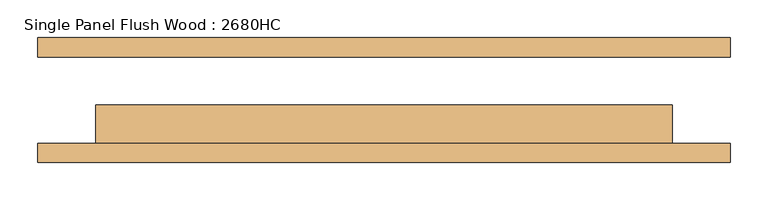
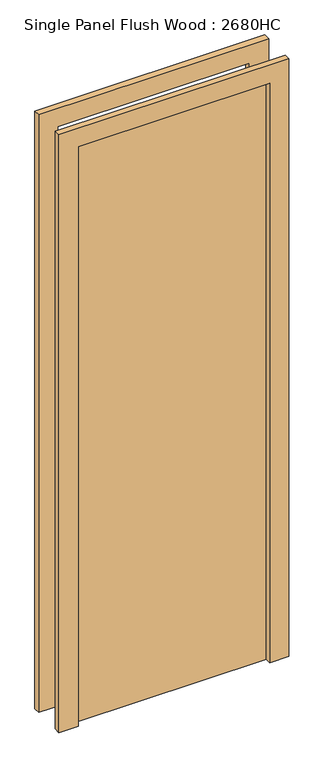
"""IFC4 building model written with IfcOpenShell, lengths in millimetres: door geometry, Single Panel Flush Wood : 2680HC."""

from ifc_helpers import new_model, si_unit, frame, origin, origin_with_axes, place, context, project, spatial, polyline, outline, extrude, source, transform, mapped, element, save


def single_panel_flush_wood_2680hc_019bc352(model_context):
    return source(origin(), model_context, "Body", "SweptSolid", [
        extrude(outline(polyline([(2514.6, -457.2), (0.0, -457.2), (0.0, -381.0), (2438.4, -381.0), (2438.4, 381.0), (0.0, 381.0), (0.0, 457.2), (2514.6, 457.2), (2514.6, -457.2)])), frame((0.0, -82.55, 0.0), z_axis=(0.0, 1.0, 0.0), x_axis=(0.0, 0.0, 1.0)), (0.0, 0.0, 1.0), 25.4),
        extrude(outline(polyline([(2514.6, 457.2), (2514.6, -457.2), (0.0, -457.2), (0.0, -381.0), (2438.4, -381.0), (2438.4, 381.0), (0.0, 381.0), (0.0, 457.2), (2514.6, 457.2)])), frame((0.0, 57.15, 0.0), z_axis=(0.0, 1.0, 0.0), x_axis=(0.0, 0.0, 1.0)), (0.0, 0.0, 1.0), 25.4),
        extrude(outline(polyline([(381.0, -6.35), (381.0, -57.15), (-381.0, -57.15), (-381.0, -6.35), (381.0, -6.35)])), origin_with_axes(), (0.0, 0.0, 1.0), 2438.4),
    ])


if __name__ == "__main__":
    model = new_model("IFC4")
    model_context = context("Model", 3, world=origin())
    ifc_project = project(units=[si_unit("LENGTHUNIT", "METRE", prefix="MILLI")], contexts=[model_context])
    site = spatial("IfcSite", under=ifc_project)
    building = spatial("IfcBuilding", under=site)
    placement = place(None, origin())
    single_panel_flush_wood_2680hc_shape = single_panel_flush_wood_2680hc_019bc352(model_context)
    element("IfcDoor", 1, ObjectType="Single Panel Flush Wood : 2680HC", at=placement, inside=building, context=model_context, shape_type="MappedRepresentation", body=[
        mapped(single_panel_flush_wood_2680hc_shape, transform((0.0, 0.0, 0.0), x_axis=(1.0, 0.0, 0.0), y_axis=(0.0, 1.0, 0.0), z_axis=(0.0, 0.0, 1.0))),
    ])
    save(model, "model.ifc")
